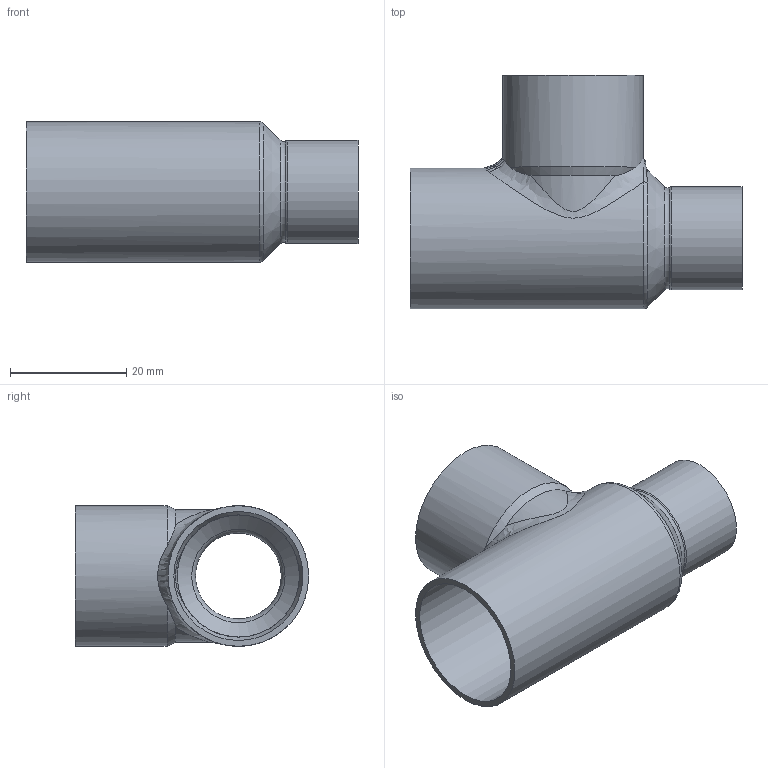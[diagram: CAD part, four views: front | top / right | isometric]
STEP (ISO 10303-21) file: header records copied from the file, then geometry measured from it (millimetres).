
FILE_DESCRIPTION(/* description */ (''),/* implementation_level */ '2;1');
FILE_NAME(/* name */ 'G:\Technik\Management\ontwikkeling\Ontwikkeling + Leveringsdokumenten + proefberichten\Sanha Ternat\Ternat 2024\Step files\5130222215_3d gem.stp',/* time_stamp */ '2024-02-27T14:06:44+01:00',/* author */ ('vdvijverd'),/* organization */ (''),/* preprocessor_version */ 'ST-DEVELOPER v19',/* originating_system */ 'Autodesk Inventor 2023',/* authorisation */ '');
FILE_SCHEMA (('AUTOMOTIVE_DESIGN { 1 0 10303 214 3 1 1 }'));
Length unit declared in the file: millimetre
Products named in the file (1): 5130222215_3d gem
Bounding box: 57 x 40.08 x 24.15 mm (x, y, z)
Volume: 5829.3 mm3; surface area: 9895.3 mm2
Topology: 1 solids, 1 shells, 35 faces, 95 edges, 57 vertices
Faces by surface type: cylinder 11, torus 7, bspline 7, cone 6, plane 4
Full cylindrical faces by diameter (mm): 15.12 x1, 17.7 x1, 22.15 x2, 24.15 x2
Entity records: 1628 total; most frequent: CARTESIAN_POINT 739, ORIENTED_EDGE 182, DIRECTION 180, EDGE_CURVE 91, AXIS2_PLACEMENT_3D 85, VERTEX_POINT 57, CIRCLE 48, EDGE_LOOP 38
